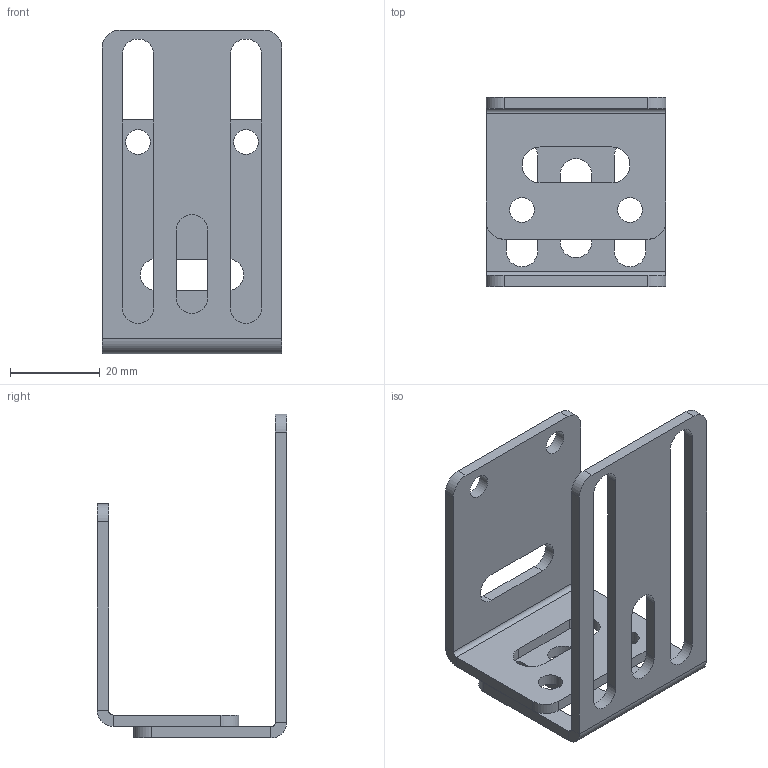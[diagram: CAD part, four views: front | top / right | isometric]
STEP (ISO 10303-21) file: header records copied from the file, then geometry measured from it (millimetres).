
FILE_DESCRIPTION(/* description */ (''),/* implementation_level */ '2;1');
FILE_NAME(/* name */ 'LB WH 80.stp',/* time_stamp */ '2024-09-30T13:09:58+02:00',/* author */ ('d.streicher'),/* organization */ (''),/* preprocessor_version */ 'ST-DEVELOPER v20',/* originating_system */ 'Autodesk Inventor 2025',/* authorisation */ '');
FILE_SCHEMA (('AUTOMOTIVE_DESIGN { 1 0 10303 214 3 1 1 }'));
Length unit declared in the file: millimetre
Products named in the file (3): LB WH 80; LB WH 80_1; WH 80 2
Assembly tree (2 placements, depth 2):
  LB WH 80
    LB WH 80_1
    WH 80 2
Bounding box: 40 x 42.11 x 72 mm (x, y, z)
Volume: 13074.5 mm3; surface area: 13428 mm2
Topology: 2 solids, 2 shells, 72 faces, 188 edges, 120 vertices
Faces by surface type: plane 40, cylinder 32
Full cylindrical faces by diameter (mm): 5.5 x4
Entity records: 2444 total; most frequent: DIRECTION 406, CARTESIAN_POINT 385, ORIENTED_EDGE 376, EDGE_CURVE 188, AXIS2_PLACEMENT_3D 141, LINE 124, VECTOR 124, VERTEX_POINT 120
